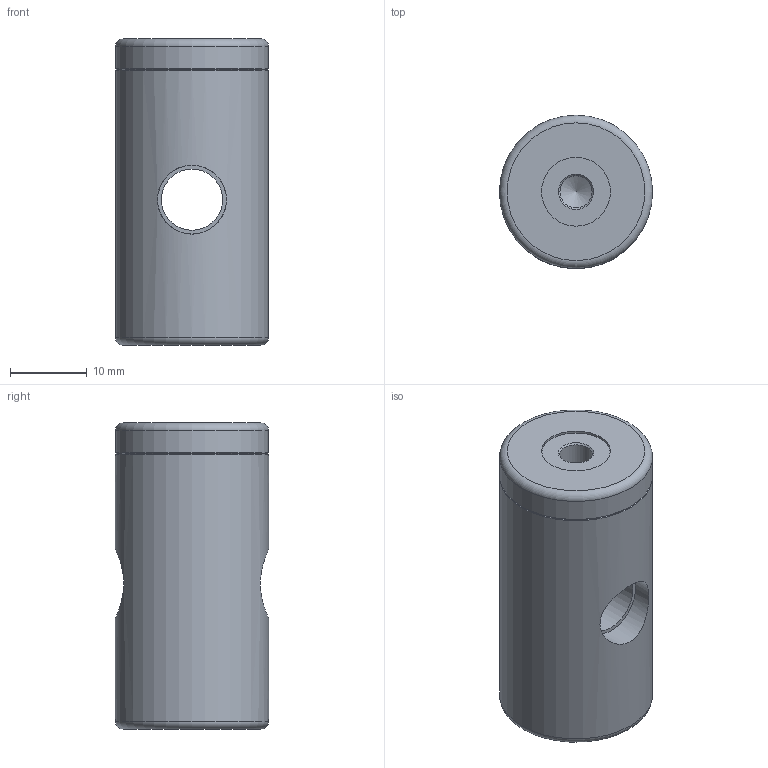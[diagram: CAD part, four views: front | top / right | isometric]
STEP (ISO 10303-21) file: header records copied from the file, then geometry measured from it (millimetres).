
FILE_DESCRIPTION(('STEP AP242'),'1');
FILE_NAME('V.5008 Feststellpatrone.stp','2026-04-23T09:33:34',(' '),(' '),'Spatial InterOp 3D',' ',' ');
FILE_SCHEMA(('AP242_MANAGED_MODEL_BASED_3D_ENGINEERING_MIM_LF {1 0 10303 442 1 1 4}'));
Length unit declared in the file: millimetre
Products named in the file (1): V.5008 Feststellpatrone
Bounding box: 20 x 20 x 40 mm (x, y, z)
Volume: 11328 mm3; surface area: 3606.8 mm2
Topology: 1 solids, 1 shells, 19 faces, 36 edges, 22 vertices
Faces by surface type: cylinder 8, plane 5, cone 4, torus 2
Full cylindrical faces by diameter (mm): 4.2 x2, 8 x1, 9 x3, 20 x2
Entity records: 767 total; most frequent: CARTESIAN_POINT 197, DIRECTION 74, EDGE_LOOP 38, ORIENTED_EDGE 38, AXIS2_PLACEMENT_3D 37, FACE_OUTER_BOUND 29, STYLED_ITEM 20, PRESENTATION_STYLE_ASSIGNMENT 20
